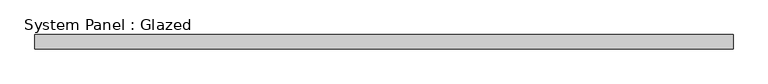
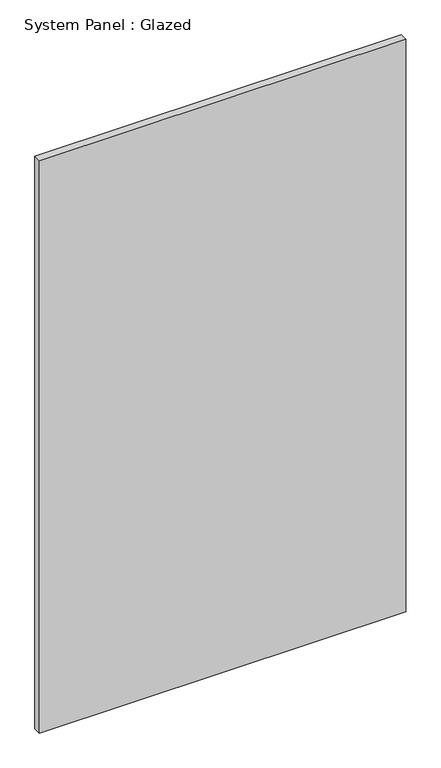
"""IFC4 building model written with IfcOpenShell, lengths in millimetres: plate geometry, System Panel : Glazed."""

from ifc_helpers import new_model, si_unit, origin, origin_with_axes, place, context, project, spatial, polyline, outline, extrude, source, transform, mapped, element, save


def system_panel_glazed_c71bf8b9(model_context):
    return source(origin(), model_context, "Body", "SweptSolid", [
        extrude(outline(polyline([(607.7777778, -49.5), (-607.7777778, -49.5), (-607.7777778, -24.5), (607.7777778, -24.5), (607.7777778, -49.5)])), origin_with_axes(), (0.0, 0.0, 1.0), 2008.0),
    ])


if __name__ == "__main__":
    model = new_model("IFC4")
    model_context = context("Model", 3, world=origin())
    ifc_project = project(units=[si_unit("LENGTHUNIT", "METRE", prefix="MILLI")], contexts=[model_context])
    site = spatial("IfcSite", under=ifc_project)
    building = spatial("IfcBuilding", under=site)
    placement = place(None, origin())
    system_panel_glazed_shape = system_panel_glazed_c71bf8b9(model_context)
    element("IfcPlate", 1, ObjectType="System Panel : Glazed", at=placement, inside=building, context=model_context, shape_type="MappedRepresentation", body=[
        mapped(system_panel_glazed_shape, transform((0.0, 0.0, 0.0), x_axis=(1.0, 0.0, 0.0), y_axis=(0.0, 1.0, 0.0), z_axis=(0.0, 0.0, 1.0))),
    ])
    save(model, "model.ifc")
